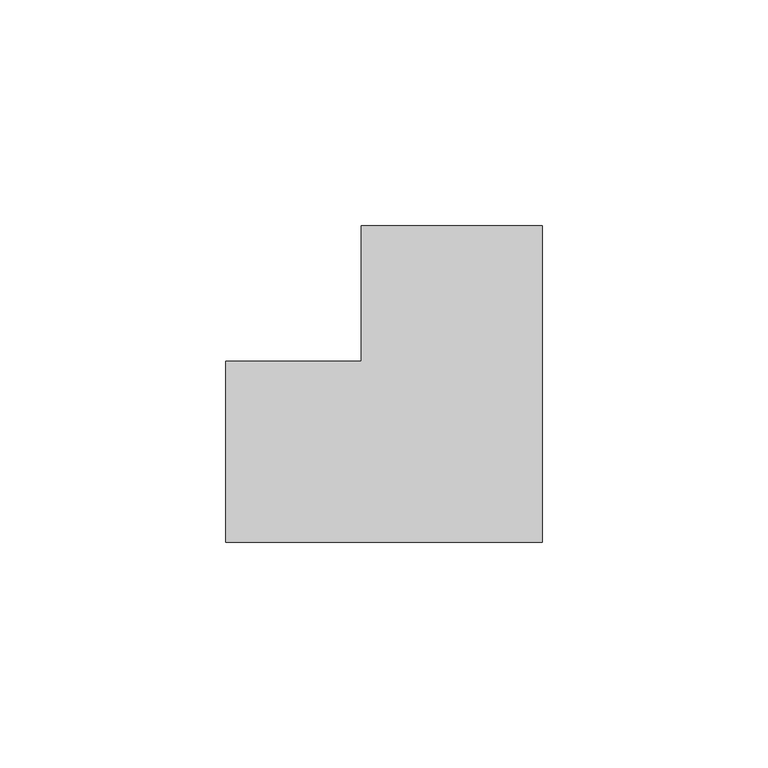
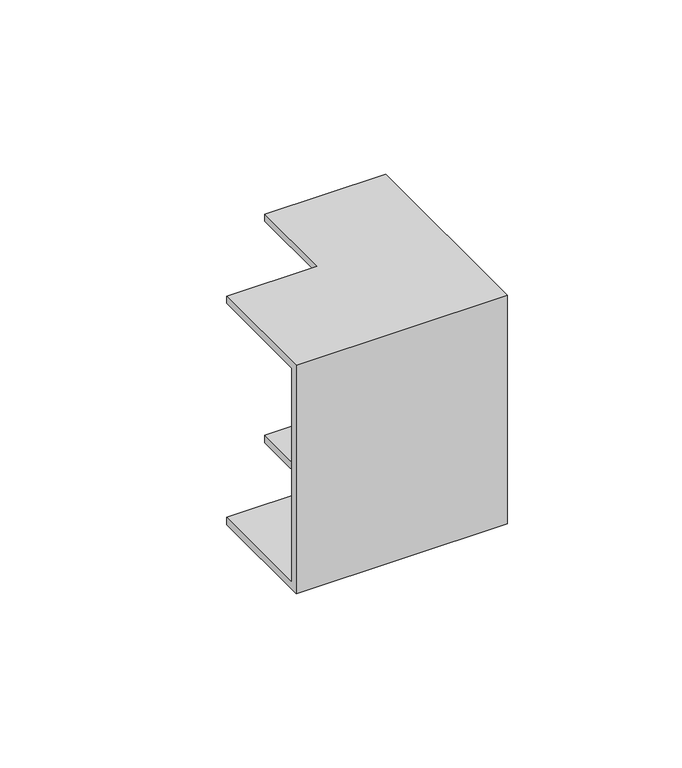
"""IFC4 building model written with IfcOpenShell, lengths in millimetres: cable carrier fitting geometry, КНС_УголВнутренний_ILC_DKC : Угол внутренний_DKC."""

from ifc_helpers import new_model, si_unit, origin, place, context, project, spatial, faceted_brep, source, transform, mapped, element, save


def cable_carrier_fitting_5f77e72e(model_context):
    return source(origin(), model_context, "Body", "Brep", [
        faceted_brep([(-50.0, -20.0, 40.0), (-50.0, 20.0, 40.0), (-50.0, 20.0, 37.5), (-50.0, -17.5, 37.5), (-50.0, -17.5, -37.5), (-50.0, 20.0, -37.5), (-50.0, 20.0, -40.0), (-50.0, -20.0, -40.0), (20.0, 50.0, 40.0), (20.0, 50.0, -40.0), (-20.0, 50.0, -40.0), (-20.0, 50.0, -37.5), (17.5, 50.0, -37.5), (17.5, 50.0, 37.5), (-20.0, 50.0, 37.5), (-20.0, 50.0, 40.0), (20.0, -20.0, 40.0), (-20.0, 20.0, 40.0), (-20.0, 20.0, 37.5), (17.5, -17.5, 37.5), (17.5, -17.5, -37.5), (-20.0, 20.0, -37.5), (-20.0, 20.0, -40.0), (20.0, -20.0, -40.0)], [[[0, 1, 2, 3, 4, 5, 6, 7]], [[8, 9, 10, 11, 12, 13, 14, 15]], [[1, 0, 16, 8, 15, 17]], [[2, 1, 17, 18]], [[3, 2, 18, 14, 13, 19]], [[4, 3, 19, 20]], [[5, 4, 20, 12, 11, 21]], [[6, 5, 21, 22]], [[7, 6, 22, 10, 9, 23]], [[0, 7, 23, 16]], [[18, 17, 15, 14]], [[20, 19, 13, 12]], [[22, 21, 11, 10]], [[16, 23, 9, 8]]]),
    ])


if __name__ == "__main__":
    model = new_model("IFC4")
    model_context = context("Model", 3, world=origin())
    ifc_project = project(units=[si_unit("LENGTHUNIT", "METRE", prefix="MILLI")], contexts=[model_context])
    site = spatial("IfcSite", under=ifc_project)
    building = spatial("IfcBuilding", under=site)
    placement = place(None, origin())
    cable_carrier_fitting_shape = cable_carrier_fitting_5f77e72e(model_context)
    element("IfcCableCarrierFitting", 1, ObjectType="КНС_УголВнутренний_ILC_DKC : Угол внутренний_DKC", at=placement, inside=building, context=model_context, shape_type="MappedRepresentation", body=[
        mapped(cable_carrier_fitting_shape, transform((0.0, 0.0, 0.0), x_axis=(1.0, 0.0, 0.0), y_axis=(0.0, 1.0, 0.0), z_axis=(0.0, 0.0, 1.0))),
    ])
    save(model, "model.ifc")
